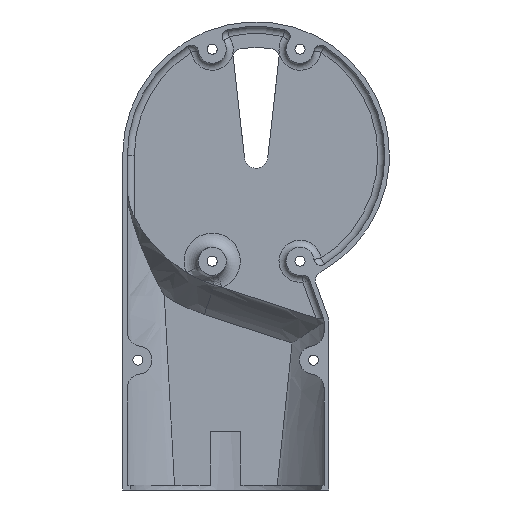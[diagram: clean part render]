
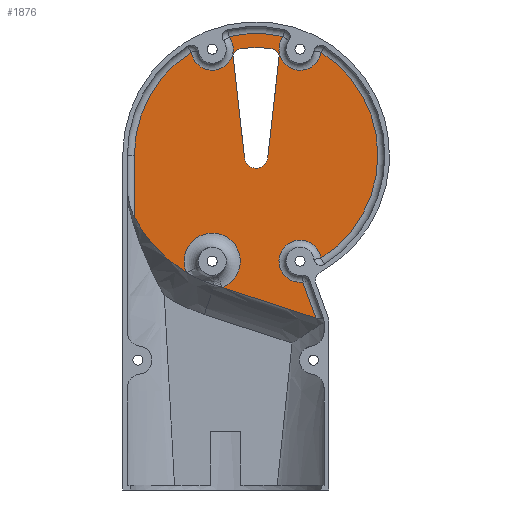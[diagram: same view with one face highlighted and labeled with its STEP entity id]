
A CAD part, front view. The second image highlights one B-rep face of the part: STEP entity #1876.
In plain terms, the highlighted planar face has unit normal (0, -1, 0).
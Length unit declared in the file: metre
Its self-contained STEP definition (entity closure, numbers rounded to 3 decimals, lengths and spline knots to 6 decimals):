
#55=B_SPLINE_CURVE_WITH_KNOTS('',3,(#2878,#2879,#2880,#2881),
 .UNSPECIFIED.,.F.,.F.,(4,4),(0.218285,0.260376),
 .UNSPECIFIED.);
#56=B_SPLINE_CURVE_WITH_KNOTS('',3,(#2900,#2901,#2902,#2903,#2904,#2905,
#2906),.UNSPECIFIED.,.F.,.F.,(4,1,1,1,4),(0.138364,0.146661,
0.154958,0.163256,0.171553),.UNSPECIFIED.);
#115=PLANE('',#2025);
#163=CIRCLE('',#2026,0.009);
#164=CIRCLE('',#2027,0.052);
#165=CIRCLE('',#2028,0.009);
#166=CIRCLE('',#2029,0.052);
#167=CIRCLE('',#2030,0.009);
#168=CIRCLE('',#2031,0.052);
#169=CIRCLE('',#2032,0.012);
#170=CIRCLE('',#2033,0.005);
#171=CIRCLE('',#2034,0.0035);
#172=CIRCLE('',#2035,0.046);
#173=CIRCLE('',#2036,0.0035);
#296=ORIENTED_EDGE('',*,*,#872,.T.);
#297=ORIENTED_EDGE('',*,*,#873,.F.);
#298=ORIENTED_EDGE('',*,*,#874,.F.);
#299=ORIENTED_EDGE('',*,*,#875,.F.);
#300=ORIENTED_EDGE('',*,*,#876,.F.);
#301=ORIENTED_EDGE('',*,*,#877,.F.);
#302=ORIENTED_EDGE('',*,*,#878,.F.);
#303=ORIENTED_EDGE('',*,*,#879,.F.);
#304=ORIENTED_EDGE('',*,*,#880,.F.);
#305=ORIENTED_EDGE('',*,*,#881,.F.);
#306=ORIENTED_EDGE('',*,*,#882,.F.);
#307=ORIENTED_EDGE('',*,*,#883,.T.);
#308=ORIENTED_EDGE('',*,*,#884,.T.);
#309=ORIENTED_EDGE('',*,*,#885,.F.);
#310=ORIENTED_EDGE('',*,*,#886,.T.);
#311=ORIENTED_EDGE('',*,*,#887,.F.);
#312=ORIENTED_EDGE('',*,*,#888,.F.);
#872=EDGE_CURVE('',#1160,#1161,#55,.T.);
#873=EDGE_CURVE('',#1162,#1161,#1332,.F.);
#874=EDGE_CURVE('',#1163,#1162,#163,.F.);
#875=EDGE_CURVE('',#1164,#1163,#164,.T.);
#876=EDGE_CURVE('',#1165,#1164,#165,.F.);
#877=EDGE_CURVE('',#1166,#1165,#166,.T.);
#878=EDGE_CURVE('',#1167,#1166,#167,.F.);
#879=EDGE_CURVE('',#1168,#1167,#168,.T.);
#880=EDGE_CURVE('',#1169,#1168,#1333,.F.);
#881=EDGE_CURVE('',#1170,#1169,#56,.T.);
#882=EDGE_CURVE('',#1160,#1170,#169,.F.);
#883=EDGE_CURVE('',#1171,#1172,#170,.T.);
#884=EDGE_CURVE('',#1172,#1173,#1334,.T.);
#885=EDGE_CURVE('',#1174,#1173,#171,.F.);
#886=EDGE_CURVE('',#1174,#1175,#172,.T.);
#887=EDGE_CURVE('',#1176,#1175,#173,.F.);
#888=EDGE_CURVE('',#1171,#1176,#1335,.T.);
#1160=VERTEX_POINT('',#2882);
#1161=VERTEX_POINT('',#2883);
#1162=VERTEX_POINT('',#2885);
#1163=VERTEX_POINT('',#2887);
#1164=VERTEX_POINT('',#2889);
#1165=VERTEX_POINT('',#2891);
#1166=VERTEX_POINT('',#2893);
#1167=VERTEX_POINT('',#2895);
#1168=VERTEX_POINT('',#2897);
#1169=VERTEX_POINT('',#2899);
#1170=VERTEX_POINT('',#2907);
#1171=VERTEX_POINT('',#2910);
#1172=VERTEX_POINT('',#2911);
#1173=VERTEX_POINT('',#2913);
#1174=VERTEX_POINT('',#2915);
#1175=VERTEX_POINT('',#2917);
#1176=VERTEX_POINT('',#2919);
#1332=LINE('',#2884,#1427);
#1333=LINE('',#2898,#1428);
#1334=LINE('',#2912,#1429);
#1335=LINE('',#2920,#1430);
#1427=VECTOR('',#2293,1.);
#1428=VECTOR('',#2306,1.);
#1429=VECTOR('',#2311,1.);
#1430=VECTOR('',#2318,1.);
#1524=EDGE_LOOP('',(#296,#297,#298,#299,#300,#301,#302,#303,#304,#305,#306));
#1525=EDGE_LOOP('',(#307,#308,#309,#310,#311,#312));
#1677=FACE_BOUND('',#1524,.T.);
#1678=FACE_BOUND('',#1525,.T.);
#1876=ADVANCED_FACE('',(#1677,#1678),#115,.T.);
#2025=AXIS2_PLACEMENT_3D('',#2877,#2291,#2292);
#2026=AXIS2_PLACEMENT_3D('',#2886,#2294,#2295);
#2027=AXIS2_PLACEMENT_3D('',#2888,#2296,#2297);
#2028=AXIS2_PLACEMENT_3D('',#2890,#2298,#2299);
#2029=AXIS2_PLACEMENT_3D('',#2892,#2300,#2301);
#2030=AXIS2_PLACEMENT_3D('',#2894,#2302,#2303);
#2031=AXIS2_PLACEMENT_3D('',#2896,#2304,#2305);
#2032=AXIS2_PLACEMENT_3D('',#2908,#2307,#2308);
#2033=AXIS2_PLACEMENT_3D('',#2909,#2309,#2310);
#2034=AXIS2_PLACEMENT_3D('',#2914,#2312,#2313);
#2035=AXIS2_PLACEMENT_3D('',#2916,#2314,#2315);
#2036=AXIS2_PLACEMENT_3D('',#2918,#2316,#2317);
#2291=DIRECTION('',(0.,-1.,0.));
#2292=DIRECTION('',(-1.,0.,0.));
#2293=DIRECTION('',(-0.342,0.,0.94));
#2294=DIRECTION('',(0.,1.,0.));
#2295=DIRECTION('',(0.,0.,-1.));
#2296=DIRECTION('',(0.,1.,0.));
#2297=DIRECTION('',(0.,0.,-1.));
#2298=DIRECTION('',(0.,1.,0.));
#2299=DIRECTION('',(0.,0.,-1.));
#2300=DIRECTION('',(0.,1.,0.));
#2301=DIRECTION('',(0.,0.,-1.));
#2302=DIRECTION('',(0.,1.,0.));
#2303=DIRECTION('',(0.,0.,-1.));
#2304=DIRECTION('',(0.,1.,0.));
#2305=DIRECTION('',(0.,0.,-1.));
#2306=DIRECTION('',(0.,0.,-1.));
#2307=DIRECTION('',(0.,1.,0.));
#2308=DIRECTION('',(0.,0.,-1.));
#2309=DIRECTION('',(0.,1.,0.));
#2310=DIRECTION('',(0.,0.,-1.));
#2311=DIRECTION('',(-0.112,0.,0.994));
#2312=DIRECTION('',(0.,1.,0.));
#2313=DIRECTION('',(0.,0.,-1.));
#2314=DIRECTION('',(0.,1.,0.));
#2315=DIRECTION('',(0.,0.,-1.));
#2316=DIRECTION('',(0.,1.,0.));
#2317=DIRECTION('',(0.,0.,-1.));
#2318=DIRECTION('',(0.112,0.,0.994));
#2877=CARTESIAN_POINT('',(0.,0.03275,0.3465));
#2878=CARTESIAN_POINT('',(-0.214533,0.03275,0.289996));
#2879=CARTESIAN_POINT('',(-0.201189,0.03275,0.285662));
#2880=CARTESIAN_POINT('',(-0.187845,0.03275,0.281328));
#2881=CARTESIAN_POINT('',(-0.1745,0.03275,0.276993));
#2882=CARTESIAN_POINT('',(-0.214533,0.03275,0.289996));
#2883=CARTESIAN_POINT('',(-0.1745,0.03275,0.276993));
#2884=CARTESIAN_POINT('',(-0.176427,0.03275,0.282286));
#2885=CARTESIAN_POINT('',(-0.180074,0.03275,0.292307));
#2886=CARTESIAN_POINT('',(-0.181249,0.03275,0.30123));
#2887=CARTESIAN_POINT('',(-0.172334,0.03275,0.30247));
#2888=CARTESIAN_POINT('',(-0.2,0.03275,0.3465));
#2889=CARTESIAN_POINT('',(-0.172334,0.03275,0.39053));
#2890=CARTESIAN_POINT('',(-0.181249,0.03275,0.39177));
#2891=CARTESIAN_POINT('',(-0.188429,0.03275,0.397196));
#2892=CARTESIAN_POINT('',(-0.2,0.03275,0.3465));
#2893=CARTESIAN_POINT('',(-0.211571,0.03275,0.397196));
#2894=CARTESIAN_POINT('',(-0.218751,0.03275,0.39177));
#2895=CARTESIAN_POINT('',(-0.227666,0.03275,0.39053));
#2896=CARTESIAN_POINT('',(-0.2,0.03275,0.3465));
#2897=CARTESIAN_POINT('',(-0.252,0.03275,0.3465));
#2898=CARTESIAN_POINT('',(-0.252,0.03275,0.3465));
#2899=CARTESIAN_POINT('',(-0.252,0.03275,0.320224));
#2900=CARTESIAN_POINT('',(-0.229736,0.03275,0.296399));
#2901=CARTESIAN_POINT('',(-0.232099,0.03275,0.2978));
#2902=CARTESIAN_POINT('',(-0.236596,0.03275,0.300917));
#2903=CARTESIAN_POINT('',(-0.242721,0.03275,0.306591));
#2904=CARTESIAN_POINT('',(-0.247953,0.03275,0.313071));
#2905=CARTESIAN_POINT('',(-0.250759,0.03275,0.31777));
#2906=CARTESIAN_POINT('',(-0.252,0.03275,0.320224));
#2907=CARTESIAN_POINT('',(-0.229736,0.03275,0.296399));
#2908=CARTESIAN_POINT('',(-0.218751,0.03275,0.30123));
#2909=CARTESIAN_POINT('',(-0.2,0.03275,0.346));
#2910=CARTESIAN_POINT('',(-0.195031,0.03275,0.345442));
#2911=CARTESIAN_POINT('',(-0.204969,0.03275,0.345442));
#2912=CARTESIAN_POINT('',(-0.202537,0.03275,0.323774));
#2913=CARTESIAN_POINT('',(-0.20976,0.03275,0.388143));
#2914=CARTESIAN_POINT('',(-0.206282,0.03275,0.388533));
#2915=CARTESIAN_POINT('',(-0.206799,0.03275,0.391995));
#2916=CARTESIAN_POINT('',(-0.2,0.03275,0.3465));
#2917=CARTESIAN_POINT('',(-0.193201,0.03275,0.391995));
#2918=CARTESIAN_POINT('',(-0.193718,0.03275,0.388533));
#2919=CARTESIAN_POINT('',(-0.19024,0.03275,0.388143));
#2920=CARTESIAN_POINT('',(-0.192489,0.03275,0.368098));
